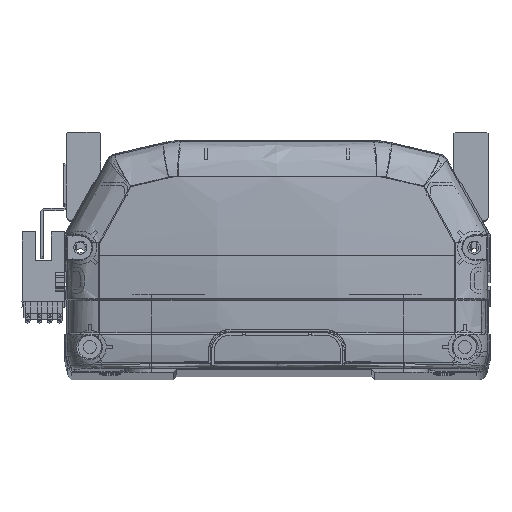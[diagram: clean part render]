
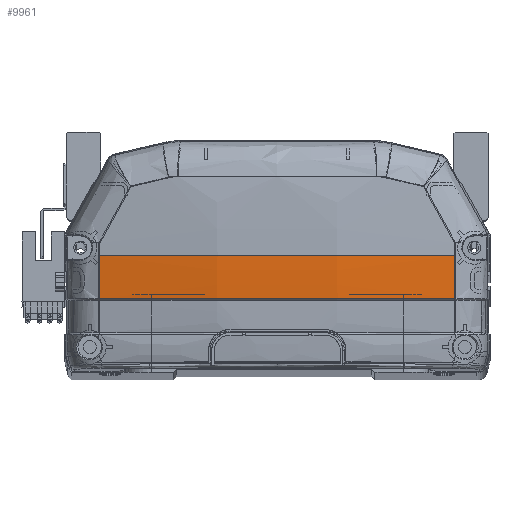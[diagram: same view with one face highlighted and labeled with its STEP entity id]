
A CAD part, top view. The second image highlights one B-rep face of the part: STEP entity #9961.
In plain terms, the highlighted free-form (B-spline) face has degree [3, 3] with [4, 4] control points.
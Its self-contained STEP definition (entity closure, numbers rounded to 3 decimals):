
#121 = CARTESIAN_POINT ( 'NONE',  ( 1.152, 22.225, -9.568 ) ) ;
#156 = CARTESIAN_POINT ( 'NONE',  ( 56.647, 31.387, -5.158 ) ) ;
#246 = VERTEX_POINT ( 'NONE', #764 ) ;
#311 = CARTESIAN_POINT ( 'NONE',  ( 56.661, 22.225, -4.818 ) ) ;
#764 = CARTESIAN_POINT ( 'NONE',  ( -56.647, 36., -5.158 ) ) ;
#1232 = EDGE_CURVE ( 'NONE', #18150, #25297, #5819, .T. ) ;
#1755 = CARTESIAN_POINT ( 'NONE',  ( 19.295, 26.549, -11.419 ) ) ;
#2077 = CARTESIAN_POINT ( 'NONE',  ( -57.335, 22.148, -4.7 ) ) ;
#4165 = VERTEX_POINT ( 'NONE', #7881 ) ;
#5581 = ORIENTED_EDGE ( 'NONE', *, *, #1232, .F. ) ;
#5819 = B_SPLINE_CURVE_WITH_KNOTS ( 'NONE', 3,
 ( #311, #29668, #156, #33417 ),
 .UNSPECIFIED., .F., .F.,
 ( 4, 4 ),
 ( 0., 1. ),
 .UNSPECIFIED. ) ;
#5867 = CARTESIAN_POINT ( 'NONE',  ( -57.335, 26.762, -4.928 ) ) ;
#6173 = CARTESIAN_POINT ( 'NONE',  ( -56.647, 36., -5.158 ) ) ;
#6406 = CARTESIAN_POINT ( 'NONE',  ( 0., 36., 330.833 ) ) ;
#7565 = AXIS2_PLACEMENT_3D ( 'NONE', #37791, #45288, #22979 ) ;
#7881 = CARTESIAN_POINT ( 'NONE',  ( -56.661, 22.225, -4.818 ) ) ;
#9961 = ADVANCED_FACE ( 'NONE', ( #32341 ), #26474, .T. ) ;
#11432 = B_SPLINE_CURVE_WITH_KNOTS ( 'NONE', 3,
 ( #6173, #43466, #24757, #20693 ),
 .UNSPECIFIED., .F., .F.,
 ( 4, 4 ),
 ( 0., 1. ),
 .UNSPECIFIED. ) ;
#11848 = AXIS2_PLACEMENT_3D ( 'NONE', #6406, #21718, #25461 ) ;
#13031 = CARTESIAN_POINT ( 'NONE',  ( -57.335, 36., -5.042 ) ) ;
#13212 = CARTESIAN_POINT ( 'NONE',  ( 19.295, 21.828, -11.186 ) ) ;
#14855 = EDGE_CURVE ( 'NONE', #246, #4165, #11432, .T. ) ;
#14969 = CARTESIAN_POINT ( 'NONE',  ( 11.954, 22.225, -9.367 ) ) ;
#15122 = CARTESIAN_POINT ( 'NONE',  ( -19.28, 22.225, -9.565 ) ) ;
#17513 = VERTEX_POINT ( 'NONE', #23627 ) ;
#18150 = VERTEX_POINT ( 'NONE', #27783 ) ;
#18175 = CARTESIAN_POINT ( 'NONE',  ( 56.647, 35.969, -5.158 ) ) ;
#18899 = CARTESIAN_POINT ( 'NONE',  ( -56.661, 22.225, -4.818 ) ) ;
#19132 = B_SPLINE_CURVE_WITH_KNOTS ( 'NONE', 3,
 ( #37136, #41204, #37288, #40744, #33385, #14969, #41056, #44476, #22501, #121, #15122, #26223, #18899 ),
 .UNSPECIFIED., .F., .F.,
 ( 4, 2, 2, 1, 2, 2, 4 ),
 ( 0., 0.25, 0.375, 0.438, 0.469, 0.5, 1. ),
 .UNSPECIFIED. ) ;
#19885 = ORIENTED_EDGE ( 'NONE', *, *, #46946, .F. ) ;
#20693 = CARTESIAN_POINT ( 'NONE',  ( -56.661, 22.225, -4.818 ) ) ;
#20714 = CARTESIAN_POINT ( 'NONE',  ( -19.295, 26.549, -11.419 ) ) ;
#21658 = ORIENTED_EDGE ( 'NONE', *, *, #46820, .T. ) ;
#21718 = DIRECTION ( 'NONE',  ( 0., 1., 0. ) ) ;
#22501 = CARTESIAN_POINT ( 'NONE',  ( 2.357, 22.225, -9.562 ) ) ;
#22979 = DIRECTION ( 'NONE',  ( -1., 0., 0. ) ) ;
#23627 = CARTESIAN_POINT ( 'NONE',  ( 56.647, 36., -5.158 ) ) ;
#24298 = CARTESIAN_POINT ( 'NONE',  ( -19.295, 31.274, -11.535 ) ) ;
#24757 = CARTESIAN_POINT ( 'NONE',  ( -56.652, 26.814, -5.045 ) ) ;
#25297 = VERTEX_POINT ( 'NONE', #18175 ) ;
#25461 = DIRECTION ( 'NONE',  ( 0., 0., -1. ) ) ;
#25514 = EDGE_CURVE ( 'NONE', #17513, #246, #48116, .T. ) ;
#26223 = CARTESIAN_POINT ( 'NONE',  ( -38.235, 22.225, -7.93 ) ) ;
#26474 =( BOUNDED_SURFACE ( )  B_SPLINE_SURFACE ( 3, 3, ( 
 ( #46781, #42837, #46615, #42666 ),
 ( #13212, #1755, #35376, #43004 ),
 ( #28028, #20714, #24298, #38789 ),
 ( #2077, #5867, #35043, #13031 ) ),
 .UNSPECIFIED., .F., .F., .T. ) 
 B_SPLINE_SURFACE_WITH_KNOTS ( ( 4, 4 ),
 ( 4, 4 ),
 ( 0., 1. ),
 ( 0., 1. ),
 .UNSPECIFIED. ) 
 GEOMETRIC_REPRESENTATION_ITEM ( )  RATIONAL_B_SPLINE_SURFACE ( (
 ( 1., 1., 1., 1.),
 ( 0.99, 0.99, 0.99, 0.99),
 ( 0.99, 0.99, 0.99, 0.99),
 ( 1., 1., 1., 1.) ) ) 
 REPRESENTATION_ITEM ( '' )  SURFACE ( )  );
#27783 = CARTESIAN_POINT ( 'NONE',  ( 56.661, 22.225, -4.818 ) ) ;
#28028 = CARTESIAN_POINT ( 'NONE',  ( -19.295, 21.828, -11.186 ) ) ;
#29668 = CARTESIAN_POINT ( 'NONE',  ( 56.652, 26.806, -5.044 ) ) ;
#31259 = CIRCLE ( 'NONE', #7565, 6395.966 ) ;
#32341 = FACE_OUTER_BOUND ( 'NONE', #41556, .T. ) ;
#32835 = ORIENTED_EDGE ( 'NONE', *, *, #14855, .F. ) ;
#33385 = CARTESIAN_POINT ( 'NONE',  ( 19.121, 22.225, -9.064 ) ) ;
#33417 = CARTESIAN_POINT ( 'NONE',  ( 56.647, 35.969, -5.158 ) ) ;
#35043 = CARTESIAN_POINT ( 'NONE',  ( -57.335, 31.38, -5.042 ) ) ;
#35376 = CARTESIAN_POINT ( 'NONE',  ( 19.295, 31.274, -11.535 ) ) ;
#37136 = CARTESIAN_POINT ( 'NONE',  ( 56.661, 22.225, -4.818 ) ) ;
#37288 = CARTESIAN_POINT ( 'NONE',  ( 38.071, 22.225, -7.566 ) ) ;
#37791 = CARTESIAN_POINT ( 'NONE',  ( 6452.613, 35.969, -5.158 ) ) ;
#38789 = CARTESIAN_POINT ( 'NONE',  ( -19.295, 36., -11.535 ) ) ;
#40744 = CARTESIAN_POINT ( 'NONE',  ( 23.877, 22.225, -8.763 ) ) ;
#41056 = CARTESIAN_POINT ( 'NONE',  ( 8.363, 22.225, -9.48 ) ) ;
#41204 = CARTESIAN_POINT ( 'NONE',  ( 47.432, 22.225, -6.377 ) ) ;
#41556 = EDGE_LOOP ( 'NONE', ( #42395, #19885, #5581, #21658, #32835 ) ) ;
#42395 = ORIENTED_EDGE ( 'NONE', *, *, #25514, .F. ) ;
#42666 = CARTESIAN_POINT ( 'NONE',  ( 57.335, 36., -5.042 ) ) ;
#42837 = CARTESIAN_POINT ( 'NONE',  ( 57.335, 26.762, -4.928 ) ) ;
#43004 = CARTESIAN_POINT ( 'NONE',  ( 19.295, 36., -11.535 ) ) ;
#43466 = CARTESIAN_POINT ( 'NONE',  ( -56.647, 31.405, -5.158 ) ) ;
#44476 = CARTESIAN_POINT ( 'NONE',  ( 4.761, 22.225, -9.537 ) ) ;
#45288 = DIRECTION ( 'NONE',  ( 0., 0., -1. ) ) ;
#46615 = CARTESIAN_POINT ( 'NONE',  ( 57.335, 31.38, -5.042 ) ) ;
#46781 = CARTESIAN_POINT ( 'NONE',  ( 57.335, 22.148, -4.7 ) ) ;
#46820 = EDGE_CURVE ( 'NONE', #18150, #4165, #19132, .T. ) ;
#46946 = EDGE_CURVE ( 'NONE', #25297, #17513, #31259, .T. ) ;
#48116 = CIRCLE ( 'NONE', #11848, 340.733 ) ;
